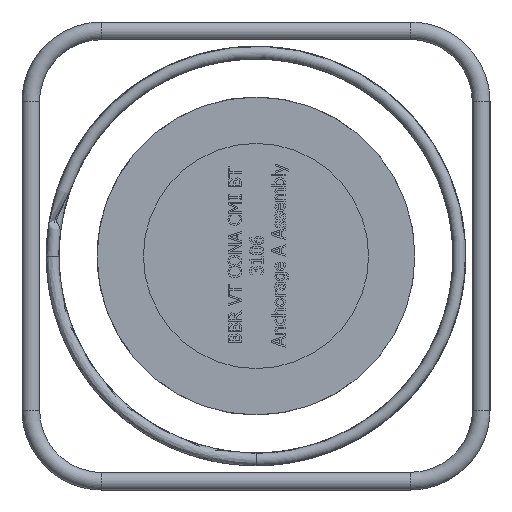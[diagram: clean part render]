
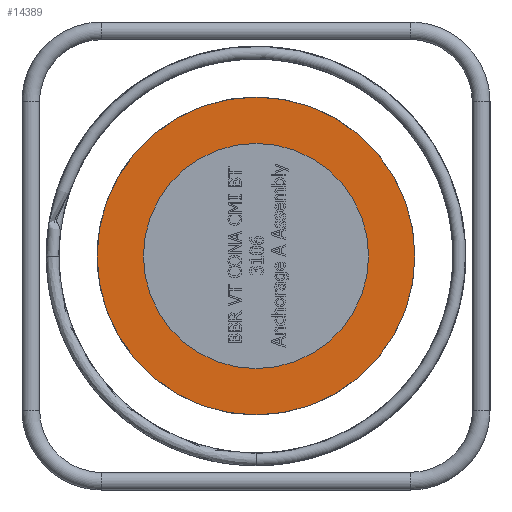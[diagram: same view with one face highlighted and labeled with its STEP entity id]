
A CAD part, left-side view. The second image highlights one B-rep face of the part: STEP entity #14389.
In plain terms, the highlighted planar face has unit normal (-1, 0, 0).
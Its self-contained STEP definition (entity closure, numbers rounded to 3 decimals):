
#2830=PLANE('',#14974);
#3645=FACE_BOUND('',#5318,.T.);
#4399=FACE_OUTER_BOUND('',#5317,.T.);
#5317=EDGE_LOOP('',(#12395));
#5318=EDGE_LOOP('',(#12396));
#5609=CIRCLE('',#14975,180.);
#5610=CIRCLE('',#14976,127.5);
#6905=VERTEX_POINT('',#30247);
#6906=VERTEX_POINT('',#30249);
#8773=EDGE_CURVE('',#6905,#6905,#5609,.T.);
#8774=EDGE_CURVE('',#6906,#6906,#5610,.T.);
#12395=ORIENTED_EDGE('',*,*,#8773,.T.);
#12396=ORIENTED_EDGE('',*,*,#8774,.F.);
#14389=ADVANCED_FACE('',(#4399,#3645),#2830,.T.);
#14974=AXIS2_PLACEMENT_3D('',#30246,#17175,#17176);
#14975=AXIS2_PLACEMENT_3D('',#30248,#17177,#17178);
#14976=AXIS2_PLACEMENT_3D('',#30250,#17179,#17180);
#17175=DIRECTION('center_axis',(-1.,0.,0.));
#17176=DIRECTION('ref_axis',(0.,0.,1.));
#17177=DIRECTION('center_axis',(-1.,0.,0.));
#17178=DIRECTION('ref_axis',(0.,-1.,0.));
#17179=DIRECTION('center_axis',(-1.,0.,0.));
#17180=DIRECTION('ref_axis',(0.,-1.,0.));
#30246=CARTESIAN_POINT('Origin',(-250.,-142.25,0.));
#30247=CARTESIAN_POINT('',(-250.,-180.,0.));
#30248=CARTESIAN_POINT('Origin',(-250.,0.,0.));
#30249=CARTESIAN_POINT('',(-250.,0.,-127.5));
#30250=CARTESIAN_POINT('Origin',(-250.,0.,0.));
